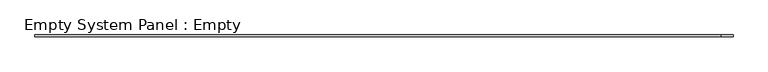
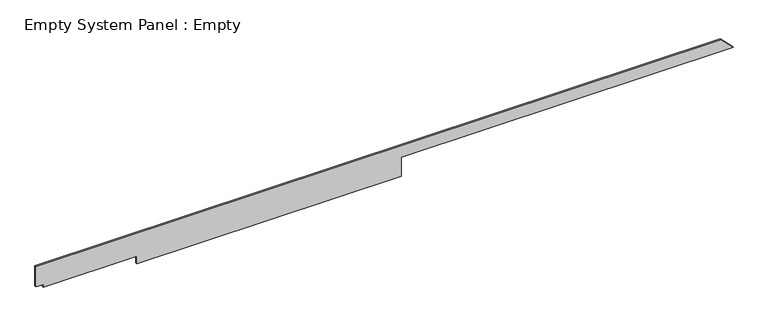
"""IFC4 building model written with IfcOpenShell, lengths in millimetres: plate geometry, Empty System Panel : Empty."""

from ifc_helpers import new_model, si_unit, frame, origin, place, context, project, spatial, polyline, outline, extrude, source, transform, mapped, element, save


def empty_system_panel_empty_36dc6f32(model_context):
    return source(origin(), model_context, "Body", "SweptSolid", [
        extrude(outline(polyline([(0.0, -14288.2467962), (0.0, 961.7532038), (1155.5089763, 961.7532038), (1155.5089763, 20108.2467962), (1843.8364056, 19427.5347787), (1843.8364056, -20108.2467962), (614.6915175, -20108.2467962), (614.6915175, -19688.2467962), (463.0134044, -19688.2467962), (463.0134044, -14288.2467962), (0.0, -14288.2467962)])), frame((0.0, -50.0, 0.0), z_axis=(0.0, 1.0, 0.0), x_axis=(0.0, 0.0, 1.0)), (0.0, 0.0, 1.0), 100.0),
    ])


if __name__ == "__main__":
    model = new_model("IFC4")
    model_context = context("Model", 3, world=origin())
    ifc_project = project(units=[si_unit("LENGTHUNIT", "METRE", prefix="MILLI")], contexts=[model_context])
    site = spatial("IfcSite", under=ifc_project)
    building = spatial("IfcBuilding", under=site)
    placement = place(None, origin())
    empty_system_panel_empty_shape = empty_system_panel_empty_36dc6f32(model_context)
    element("IfcPlate", 1, ObjectType="Empty System Panel : Empty", at=placement, inside=building, context=model_context, shape_type="MappedRepresentation", body=[
        mapped(empty_system_panel_empty_shape, transform((0.0, 0.0, 0.0), x_axis=(1.0, 0.0, 0.0), y_axis=(0.0, 1.0, 0.0), z_axis=(0.0, 0.0, 1.0))),
    ])
    save(model, "model.ifc")
